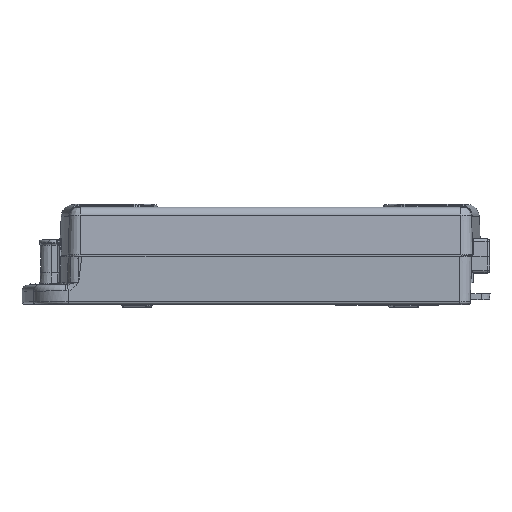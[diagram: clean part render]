
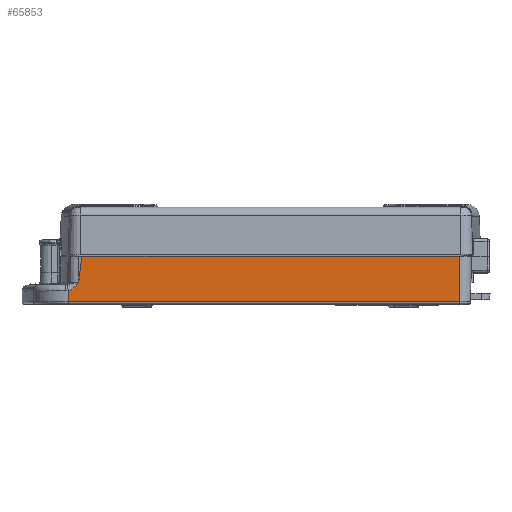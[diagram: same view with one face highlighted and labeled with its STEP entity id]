
A CAD part, top view. The second image highlights one B-rep face of the part: STEP entity #65853.
In plain terms, the highlighted planar face has unit normal (0, -0.026, 1).
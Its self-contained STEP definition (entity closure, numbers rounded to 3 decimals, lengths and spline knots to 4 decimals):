
#18289=DIRECTION('',(1.,0.,0.));
#18290=VECTOR('',#18289,7.7931);
#18291=CARTESIAN_POINT('',(-8.0431,0.985,3.4996));
#18292=LINE('',#18291,#18290);
#18293=DIRECTION('',(0.,-1.,-0.026));
#18294=VECTOR('',#18293,0.9366);
#18295=CARTESIAN_POINT('',(-0.25,0.985,3.4996));
#18296=LINE('',#18295,#18294);
#18297=DIRECTION('',(1.,0.,0.));
#18298=VECTOR('',#18297,8.0746);
#18299=CARTESIAN_POINT('',(-8.3246,0.0487,
3.4751));
#18300=LINE('',#18299,#18298);
#18301=DIRECTION('',(0.,-1.,-0.026));
#18302=VECTOR('',#18301,0.2285);
#18303=CARTESIAN_POINT('',(-8.3246,0.2771,
3.4811));
#18304=LINE('',#18303,#18302);
#18305=CARTESIAN_POINT('',(-8.3246,0.2771,
3.4811));
#18306=CARTESIAN_POINT('',(-8.3063,0.2814,
3.4812));
#18307=CARTESIAN_POINT('',(-8.2697,0.2946,
3.4815));
#18308=CARTESIAN_POINT('',(-8.2137,0.3317,
3.4825));
#18309=CARTESIAN_POINT('',(-8.161,0.3854,
3.4839));
#18310=CARTESIAN_POINT('',(-8.1276,0.4286,
3.485));
#18311=CARTESIAN_POINT('',(-8.1101,0.4513,
3.4856));
#18313=CARTESIAN_POINT('',(-8.1099,0.4547,
3.4857));
#18314=CARTESIAN_POINT('',(-8.1099,0.4543,
3.4857));
#18315=CARTESIAN_POINT('',(-8.11,0.4539,
3.4857));
#18316=CARTESIAN_POINT('',(-8.11,0.4525,
3.4857));
#18317=CARTESIAN_POINT('',(-8.11,0.4517,
3.4856));
#18318=CARTESIAN_POINT('',(-8.1101,0.4513,
3.4856));
#18320=CARTESIAN_POINT('',(-8.0431,0.985,3.4996));
#18321=CARTESIAN_POINT('',(-8.0506,0.9254,
3.498));
#18322=CARTESIAN_POINT('',(-8.0655,0.8067,
3.4949));
#18323=CARTESIAN_POINT('',(-8.0875,0.63,
3.4903));
#18324=CARTESIAN_POINT('',(-8.1026,0.5128,
3.4872));
#18325=CARTESIAN_POINT('',(-8.1099,0.4547,
3.4857));
#20575=CARTESIAN_POINT('',(-8.1099,0.4547,
3.4857));
#30657=CARTESIAN_POINT('',(-0.25,0.985,3.4996));
#30659=VERTEX_POINT('',#30657);
#31231=CARTESIAN_POINT('',(-8.3246,0.0487,
3.4751));
#31232=VERTEX_POINT('',#31231);
#31235=CARTESIAN_POINT('',(-0.25,0.0487,
3.4751));
#31236=VERTEX_POINT('',#31235);
#31251=CARTESIAN_POINT('',(-8.3246,0.2771,
3.4811));
#31252=VERTEX_POINT('',#31251);
#33698=VERTEX_POINT('',#18311);
#34476=VERTEX_POINT('',#20575);
#34478=CARTESIAN_POINT('',(-8.0431,0.985,3.4996));
#34479=VERTEX_POINT('',#34478);
#65834=CARTESIAN_POINT('',(-9.6447,1.,3.5));
#65835=DIRECTION('',(0.,-0.026,1.));
#65836=DIRECTION('',(1.,0.,0.));
#65837=AXIS2_PLACEMENT_3D('',#65834,#65835,#65836);
#65838=PLANE('',#65837);
#65839=ORIENTED_EDGE('',*,*,#65790,.T.);
#65841=ORIENTED_EDGE('',*,*,#65840,.T.);
#65843=ORIENTED_EDGE('',*,*,#65842,.F.);
#65845=ORIENTED_EDGE('',*,*,#65844,.F.);
#65847=ORIENTED_EDGE('',*,*,#65846,.T.);
#65849=ORIENTED_EDGE('',*,*,#65848,.F.);
#65850=ORIENTED_EDGE('',*,*,#65828,.F.);
#65851=EDGE_LOOP('',(#65839,#65841,#65843,#65845,#65847,#65849,#65850));
#65852=FACE_OUTER_BOUND('',#65851,.F.);
#65853=ADVANCED_FACE('',(#65852),#65838,.T.);
#18312=B_SPLINE_CURVE_WITH_KNOTS('',3,(#18305,#18306,#18307,#18308,#18309,
#18310,#18311),.UNSPECIFIED.,.F.,.F.,(4,1,1,1,4),(0.,0.25,0.5,0.75,
1.),.UNSPECIFIED.);
#18319=B_SPLINE_CURVE_WITH_KNOTS('',3,(#18313,#18314,#18315,#18316,#18317,
#18318),.UNSPECIFIED.,.F.,.F.,(4,1,1,4),(0.,0.3333,
0.6667,1.),.UNSPECIFIED.);
#18326=B_SPLINE_CURVE_WITH_KNOTS('',3,(#18320,#18321,#18322,#18323,#18324,
#18325),.UNSPECIFIED.,.F.,.F.,(4,1,1,4),(0.,0.3333,
0.6667,1.),.UNSPECIFIED.);
#65790=EDGE_CURVE('',#34479,#30659,#18292,.T.);
#65828=EDGE_CURVE('',#34479,#34476,#18326,.T.);
#65840=EDGE_CURVE('',#30659,#31236,#18296,.T.);
#65842=EDGE_CURVE('',#31232,#31236,#18300,.T.);
#65844=EDGE_CURVE('',#31252,#31232,#18304,.T.);
#65846=EDGE_CURVE('',#31252,#33698,#18312,.T.);
#65848=EDGE_CURVE('',#34476,#33698,#18319,.T.);
